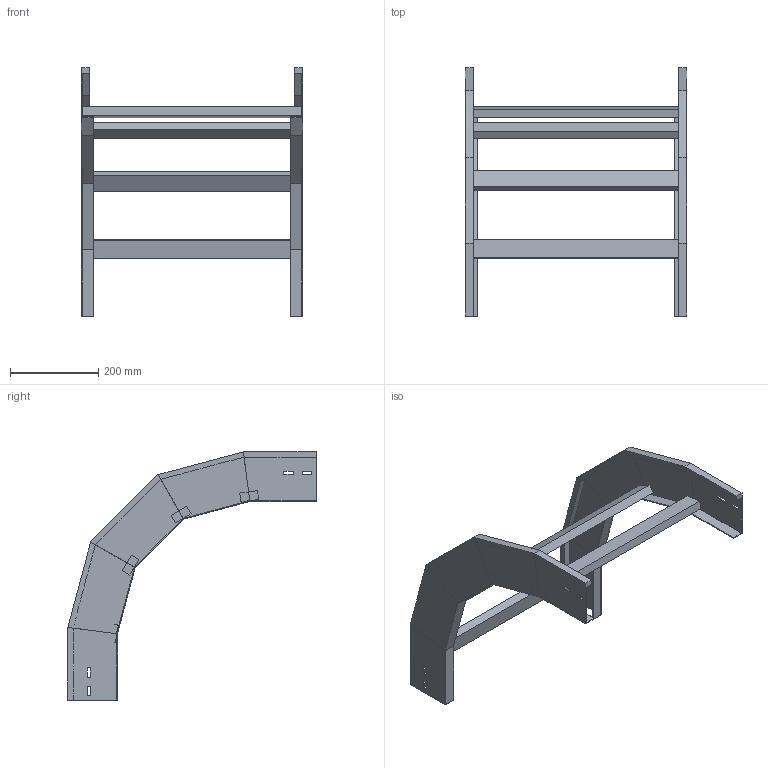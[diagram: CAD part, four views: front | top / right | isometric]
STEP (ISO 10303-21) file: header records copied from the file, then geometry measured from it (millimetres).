
FILE_DESCRIPTION (( 'STEP AP214' ), '1' );
FILE_NAME ('A2_33B3J500.step', '2025-02-21T15:03:40', ( '' ), ( '' ), 'SwSTEP 2.0', 'SolidWorks 2023', '' );
FILE_SCHEMA (( 'AUTOMOTIVE_DESIGN' ));
Length unit declared in the file: millimetre
Products named in the file (3): TRAVERSINO_500; LONGH.DISCESA_90°_H112.5_R300; A2_33B3J500
Assembly tree (6 placements, depth 2):
  A2_33B3J500
    LONGH.DISCESA_90°_H112.5_R300  x2
    TRAVERSINO_500  x4
Bounding box: 500 x 561.94 x 561.94 mm (x, y, z)
Volume: 2425074 mm3; surface area: 774939.5 mm2
Topology: 6 solids, 6 shells, 140 faces, 320 edges, 192 vertices
Faces by surface type: plane 140
Entity records: 1872 total; most frequent: CARTESIAN_POINT 309, ORIENTED_EDGE 296, DIRECTION 294, VECTOR 148, EDGE_CURVE 148, LINE 148, VERTEX_POINT 88, AXIS2_PLACEMENT_3D 73
